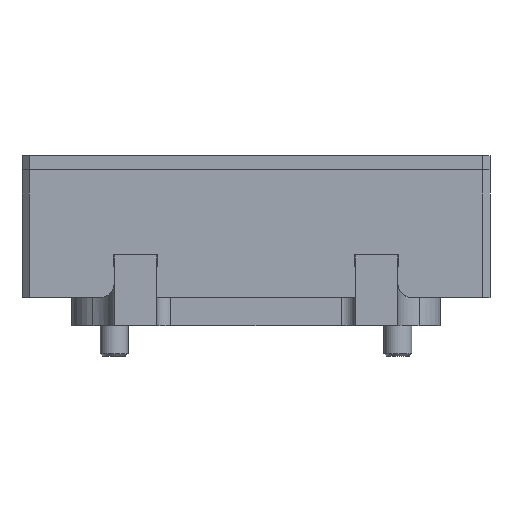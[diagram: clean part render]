
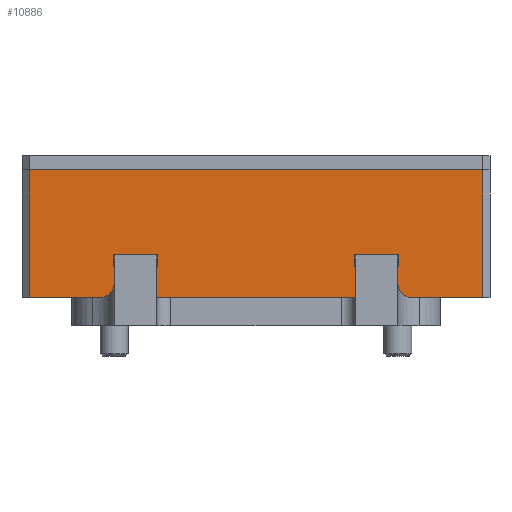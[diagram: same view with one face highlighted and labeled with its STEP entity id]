
A CAD part, front view. The second image highlights one B-rep face of the part: STEP entity #10886.
In plain terms, the highlighted planar face has unit normal (0, -1, 0).
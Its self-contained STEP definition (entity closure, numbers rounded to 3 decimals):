
#69 = CARTESIAN_POINT ( 'NONE',  ( -14.474, -18.997, 62.1 ) ) ;
#142 = EDGE_CURVE ( 'NONE', #1202, #14433, #6816, .T. ) ;
#166 = VERTEX_POINT ( 'NONE', #2042 ) ;
#428 = VECTOR ( 'NONE', #10940, 1000. ) ;
#517 = CARTESIAN_POINT ( 'NONE',  ( -20.674, -18.997, 60.4 ) ) ;
#595 = EDGE_CURVE ( 'NONE', #8864, #18149, #12297, .T. ) ;
#650 = VERTEX_POINT ( 'NONE', #15607 ) ;
#664 = CARTESIAN_POINT ( 'NONE',  ( 32.426, -18.997, 74. ) ) ;
#700 = VECTOR ( 'NONE', #16591, 1000. ) ;
#970 = CARTESIAN_POINT ( 'NONE',  ( -14.474, -18.997, 62.1 ) ) ;
#1202 = VERTEX_POINT ( 'NONE', #9512 ) ;
#1487 = VERTEX_POINT ( 'NONE', #11881 ) ;
#1744 = DIRECTION ( 'NONE',  ( 0., 0., -1. ) ) ;
#1745 = DIRECTION ( 'NONE',  ( 0., 0., 1. ) ) ;
#2042 = CARTESIAN_POINT ( 'NONE',  ( -14.474, -18.997, 60.4 ) ) ;
#2047 = EDGE_LOOP ( 'NONE', ( #3985, #4217, #7441, #12283 ) ) ;
#2226 = DIRECTION ( 'NONE',  ( 0., 0., -1. ) ) ;
#2234 = EDGE_LOOP ( 'NONE', ( #15223, #17432, #11555, #8784 ) ) ;
#2414 = CARTESIAN_POINT ( 'NONE',  ( 32.426, -18.997, 56. ) ) ;
#2591 = CARTESIAN_POINT ( 'NONE',  ( -20.674, -18.997, 60.4 ) ) ;
#2772 = ORIENTED_EDGE ( 'NONE', *, *, #12742, .F. ) ;
#3082 = VECTOR ( 'NONE', #5943, 1000. ) ;
#3430 = LINE ( 'NONE', #664, #14802 ) ;
#3985 = ORIENTED_EDGE ( 'NONE', *, *, #17230, .F. ) ;
#3995 = EDGE_CURVE ( 'NONE', #1487, #5491, #3430, .T. ) ;
#4015 = CARTESIAN_POINT ( 'NONE',  ( 19.526, -18.997, 60.4 ) ) ;
#4217 = ORIENTED_EDGE ( 'NONE', *, *, #6327, .F. ) ;
#4484 = CARTESIAN_POINT ( 'NONE',  ( 32.426, -18.997, 74. ) ) ;
#4757 = EDGE_CURVE ( 'NONE', #166, #17407, #11929, .T. ) ;
#5071 = CARTESIAN_POINT ( 'NONE',  ( -32.574, -18.997, 74. ) ) ;
#5491 = VERTEX_POINT ( 'NONE', #12741 ) ;
#5564 = EDGE_CURVE ( 'NONE', #14433, #5491, #11664, .T. ) ;
#5884 = LINE ( 'NONE', #10416, #9673 ) ;
#5943 = DIRECTION ( 'NONE',  ( 0., 0., 1. ) ) ;
#5962 = VERTEX_POINT ( 'NONE', #6753 ) ;
#6257 = EDGE_CURVE ( 'NONE', #1487, #1202, #14012, .T. ) ;
#6327 = EDGE_CURVE ( 'NONE', #16469, #12826, #7097, .T. ) ;
#6753 = CARTESIAN_POINT ( 'NONE',  ( 19.526, -18.997, 60.4 ) ) ;
#6816 = LINE ( 'NONE', #2414, #16198 ) ;
#6912 = VECTOR ( 'NONE', #2226, 1000. ) ;
#7097 = LINE ( 'NONE', #18866, #9343 ) ;
#7380 = DIRECTION ( 'NONE',  ( 0., 0., 1. ) ) ;
#7441 = ORIENTED_EDGE ( 'NONE', *, *, #10905, .F. ) ;
#7596 = DIRECTION ( 'NONE',  ( 0., 1., 0. ) ) ;
#7841 = DIRECTION ( 'NONE',  ( 1., 0., 0. ) ) ;
#8435 = AXIS2_PLACEMENT_3D ( 'NONE', #4484, #7596, #9030 ) ;
#8710 = ORIENTED_EDGE ( 'NONE', *, *, #14385, .F. ) ;
#8784 = ORIENTED_EDGE ( 'NONE', *, *, #5564, .T. ) ;
#8864 = VERTEX_POINT ( 'NONE', #16084 ) ;
#9030 = DIRECTION ( 'NONE',  ( 0., 0., -1. ) ) ;
#9343 = VECTOR ( 'NONE', #15667, 1000. ) ;
#9512 = CARTESIAN_POINT ( 'NONE',  ( -32.574, -18.997, 56. ) ) ;
#9673 = VECTOR ( 'NONE', #1745, 1000. ) ;
#9913 = DIRECTION ( 'NONE',  ( 1., 0., 0. ) ) ;
#9932 = EDGE_LOOP ( 'NONE', ( #8710, #12498, #2772, #13879 ) ) ;
#10416 = CARTESIAN_POINT ( 'NONE',  ( 19.526, -18.997, 62.1 ) ) ;
#10549 = LINE ( 'NONE', #517, #700 ) ;
#10796 = CARTESIAN_POINT ( 'NONE',  ( 19.526, -18.997, 62.1 ) ) ;
#10886 = ADVANCED_FACE ( 'NONE', ( #14623, #17525, #16090 ), #18896, .F. ) ;
#10905 = EDGE_CURVE ( 'NONE', #5962, #16469, #5884, .T. ) ;
#10940 = DIRECTION ( 'NONE',  ( 0., 0., -1. ) ) ;
#11555 = ORIENTED_EDGE ( 'NONE', *, *, #142, .T. ) ;
#11664 = LINE ( 'NONE', #14880, #13325 ) ;
#11676 = VECTOR ( 'NONE', #9913, 1000. ) ;
#11855 = CARTESIAN_POINT ( 'NONE',  ( 13.326, -18.997, 62.1 ) ) ;
#11881 = CARTESIAN_POINT ( 'NONE',  ( -32.574, -18.997, 74. ) ) ;
#11929 = LINE ( 'NONE', #69, #3082 ) ;
#12071 = CARTESIAN_POINT ( 'NONE',  ( 13.326, -18.997, 62.1 ) ) ;
#12196 = CARTESIAN_POINT ( 'NONE',  ( 31.426, -18.997, 56. ) ) ;
#12283 = ORIENTED_EDGE ( 'NONE', *, *, #15417, .F. ) ;
#12297 = LINE ( 'NONE', #13574, #428 ) ;
#12353 = VECTOR ( 'NONE', #1744, 1000. ) ;
#12498 = ORIENTED_EDGE ( 'NONE', *, *, #595, .F. ) ;
#12741 = CARTESIAN_POINT ( 'NONE',  ( 31.426, -18.997, 74. ) ) ;
#12742 = EDGE_CURVE ( 'NONE', #17407, #8864, #17325, .T. ) ;
#12756 = DIRECTION ( 'NONE',  ( 1., 0., 0. ) ) ;
#12826 = VERTEX_POINT ( 'NONE', #11855 ) ;
#13325 = VECTOR ( 'NONE', #7380, 1000. ) ;
#13574 = CARTESIAN_POINT ( 'NONE',  ( -20.674, -18.997, 62.1 ) ) ;
#13879 = ORIENTED_EDGE ( 'NONE', *, *, #4757, .F. ) ;
#14012 = LINE ( 'NONE', #5071, #6912 ) ;
#14385 = EDGE_CURVE ( 'NONE', #18149, #166, #10549, .T. ) ;
#14433 = VERTEX_POINT ( 'NONE', #12196 ) ;
#14527 = VECTOR ( 'NONE', #18880, 1000. ) ;
#14623 = FACE_BOUND ( 'NONE', #9932, .T. ) ;
#14802 = VECTOR ( 'NONE', #7841, 1000. ) ;
#14880 = CARTESIAN_POINT ( 'NONE',  ( 31.426, -18.997, 74. ) ) ;
#15194 = LINE ( 'NONE', #12071, #12353 ) ;
#15223 = ORIENTED_EDGE ( 'NONE', *, *, #3995, .F. ) ;
#15417 = EDGE_CURVE ( 'NONE', #650, #5962, #17324, .T. ) ;
#15607 = CARTESIAN_POINT ( 'NONE',  ( 13.326, -18.997, 60.4 ) ) ;
#15667 = DIRECTION ( 'NONE',  ( -1., 0., 0. ) ) ;
#16084 = CARTESIAN_POINT ( 'NONE',  ( -20.674, -18.997, 62.1 ) ) ;
#16090 = FACE_OUTER_BOUND ( 'NONE', #2234, .T. ) ;
#16198 = VECTOR ( 'NONE', #12756, 1000. ) ;
#16469 = VERTEX_POINT ( 'NONE', #10796 ) ;
#16591 = DIRECTION ( 'NONE',  ( 1., 0., 0. ) ) ;
#17230 = EDGE_CURVE ( 'NONE', #12826, #650, #15194, .T. ) ;
#17324 = LINE ( 'NONE', #4015, #11676 ) ;
#17325 = LINE ( 'NONE', #17419, #14527 ) ;
#17407 = VERTEX_POINT ( 'NONE', #970 ) ;
#17419 = CARTESIAN_POINT ( 'NONE',  ( -20.674, -18.997, 62.1 ) ) ;
#17432 = ORIENTED_EDGE ( 'NONE', *, *, #6257, .T. ) ;
#17525 = FACE_BOUND ( 'NONE', #2047, .T. ) ;
#18149 = VERTEX_POINT ( 'NONE', #2591 ) ;
#18866 = CARTESIAN_POINT ( 'NONE',  ( 19.526, -18.997, 62.1 ) ) ;
#18880 = DIRECTION ( 'NONE',  ( -1., 0., 0. ) ) ;
#18896 = PLANE ( 'NONE',  #8435 ) ;
